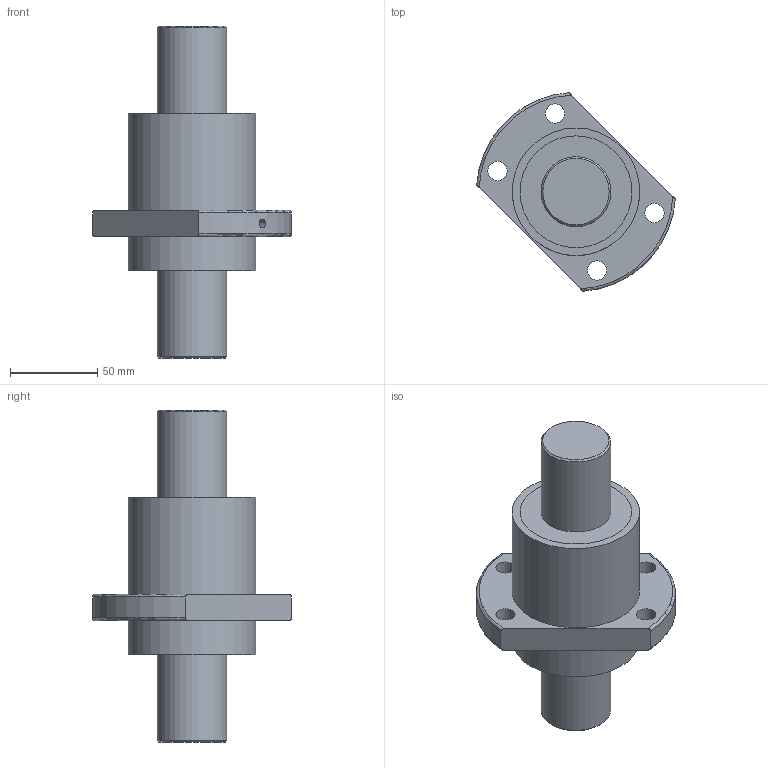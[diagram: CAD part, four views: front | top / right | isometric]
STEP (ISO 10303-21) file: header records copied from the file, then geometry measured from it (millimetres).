
FILE_DESCRIPTION(/* description */ (''),/* implementation_level */ '2;1');
FILE_NAME(/* name */ 'SFY4080-1.6.stp',/* time_stamp */ '2014-02-21T15:24:02+08:00',/* author */ (''),/* organization */ (''),/* preprocessor_version */ 'ST-DEVELOPER v11',/* originating_system */ 'SIEMENS UGS NX 6.0',/* authorisation */ '');
FILE_SCHEMA (('CONFIG_CONTROL_DESIGN'));
Length unit declared in the file: millimetre
Products named in the file (1): fann4717bkfi
Bounding box: 113.74 x 113.74 x 190 mm (x, y, z)
Volume: 551548.5 mm3; surface area: 89986.6 mm2
Topology: 4 solids, 4 shells, 56 faces, 107 edges, 73 vertices
Faces by surface type: cylinder 27, plane 23, torus 4, cone 2
Full cylindrical faces by diameter (mm): 4 x1, 5 x1, 11 x4, 40 x4, 58 x4, 64 x4, 65.5 x4, 73 x2
Entity records: 1580 total; most frequent: CARTESIAN_POINT 432, DIRECTION 236, ORIENTED_EDGE 148, AXIS2_PLACEMENT_3D 114, EDGE_LOOP 110, FACE_BOUND 100, EDGE_CURVE 74, VERTEX_POINT 66
